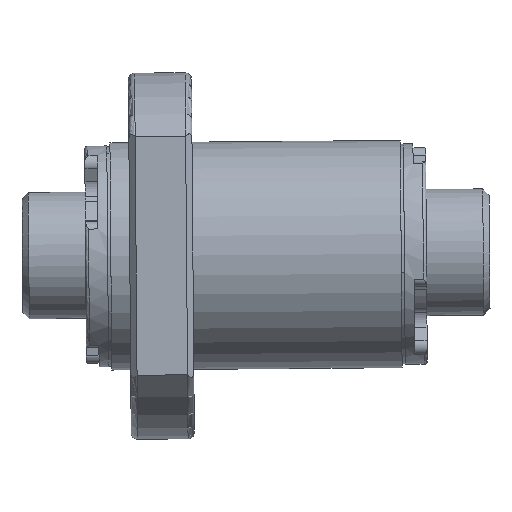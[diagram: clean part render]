
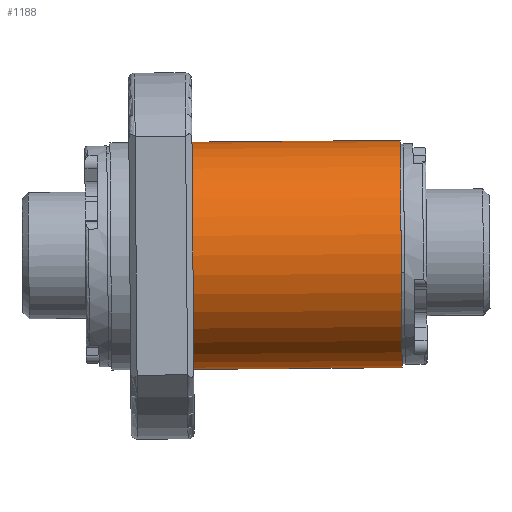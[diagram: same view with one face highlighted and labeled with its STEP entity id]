
A CAD part, top view. The second image highlights one B-rep face of the part: STEP entity #1188.
In plain terms, the highlighted cylindrical face has radius 18 mm (diameter 36 mm), a partial arc.
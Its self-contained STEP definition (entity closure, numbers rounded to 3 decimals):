
#48 = DIRECTION ( 'NONE',  ( -1., -0.008, 0. ) ) ;
#140 = VERTEX_POINT ( 'NONE', #2069 ) ;
#147 = EDGE_CURVE ( 'NONE', #4002, #1072, #7191, .T. ) ;
#189 = DIRECTION ( 'NONE',  ( -1., -0.008, 0. ) ) ;
#204 = EDGE_CURVE ( 'NONE', #140, #4964, #4571, .T. ) ;
#214 = DIRECTION ( 'NONE',  ( -0.008, 1., 0. ) ) ;
#235 = AXIS2_PLACEMENT_3D ( 'NONE', #6590, #48, #4769 ) ;
#284 = DIRECTION ( 'NONE',  ( -1., -0.008, 0. ) ) ;
#465 = ORIENTED_EDGE ( 'NONE', *, *, #6445, .F. ) ;
#880 = DIRECTION ( 'NONE',  ( -1., -0.008, 0. ) ) ;
#1026 = CYLINDRICAL_SURFACE ( 'NONE', #1344, 18. ) ;
#1072 = VERTEX_POINT ( 'NONE', #1833 ) ;
#1188 = ADVANCED_FACE ( 'NONE', ( #4829 ), #1026, .T. ) ;
#1344 = AXIS2_PLACEMENT_3D ( 'NONE', #4979, #189, #214 ) ;
#1438 = CIRCLE ( 'NONE', #235, 18. ) ;
#1703 = DIRECTION ( 'NONE',  ( 1., 0.008, 0. ) ) ;
#1833 = CARTESIAN_POINT ( 'NONE',  ( 16.856, 17.919, 0. ) ) ;
#2069 = CARTESIAN_POINT ( 'NONE',  ( 50.144, -17.815, 0. ) ) ;
#2224 = ORIENTED_EDGE ( 'NONE', *, *, #7083, .F. ) ;
#2555 = CARTESIAN_POINT ( 'NONE',  ( 49.855, 18.184, 0. ) ) ;
#2896 = DIRECTION ( 'NONE',  ( 0.008, -1., 0. ) ) ;
#3102 = VECTOR ( 'NONE', #284, 1000. ) ;
#3216 = EDGE_LOOP ( 'NONE', ( #5141, #2224, #6660, #465 ) ) ;
#3250 = CARTESIAN_POINT ( 'NONE',  ( -0.144, 17.782, 0. ) ) ;
#3881 = AXIS2_PLACEMENT_3D ( 'NONE', #6439, #1703, #2896 ) ;
#4002 = VERTEX_POINT ( 'NONE', #2555 ) ;
#4176 = CARTESIAN_POINT ( 'NONE',  ( 17.145, -18.08, 0. ) ) ;
#4571 = LINE ( 'NONE', #7406, #3102 ) ;
#4769 = DIRECTION ( 'NONE',  ( 0., 0., 1. ) ) ;
#4829 = FACE_OUTER_BOUND ( 'NONE', #3216, .T. ) ;
#4964 = VERTEX_POINT ( 'NONE', #4176 ) ;
#4979 = CARTESIAN_POINT ( 'NONE',  ( 0.001, -0.217, 0. ) ) ;
#5141 = ORIENTED_EDGE ( 'NONE', *, *, #204, .F. ) ;
#6439 = CARTESIAN_POINT ( 'NONE',  ( 49.999, 0.185, 0. ) ) ;
#6445 = EDGE_CURVE ( 'NONE', #4964, #1072, #1438, .T. ) ;
#6540 = VECTOR ( 'NONE', #880, 1000. ) ;
#6590 = CARTESIAN_POINT ( 'NONE',  ( 17., -0.08, 0. ) ) ;
#6631 = CIRCLE ( 'NONE', #3881, 18. ) ;
#6660 = ORIENTED_EDGE ( 'NONE', *, *, #147, .T. ) ;
#7083 = EDGE_CURVE ( 'NONE', #4002, #140, #6631, .T. ) ;
#7191 = LINE ( 'NONE', #3250, #6540 ) ;
#7406 = CARTESIAN_POINT ( 'NONE',  ( 0.146, -18.216, 0. ) ) ;
